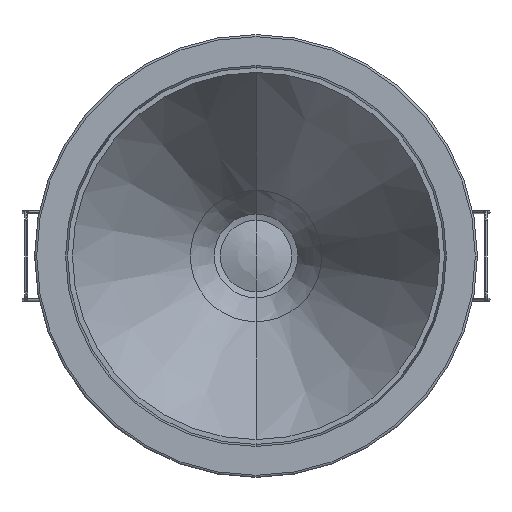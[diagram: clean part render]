
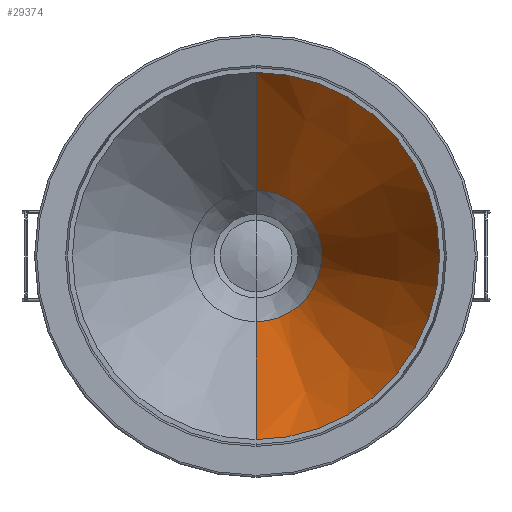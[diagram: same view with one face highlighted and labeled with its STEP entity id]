
A CAD part, front view. The second image highlights one B-rep face of the part: STEP entity #29374.
In plain terms, the highlighted conical face has half-angle 28.594 degrees and reference radius 29.564 mm.
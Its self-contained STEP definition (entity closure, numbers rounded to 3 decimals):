
#29231=CARTESIAN_POINT('',(0.,0.,-52.293));
#29232=DIRECTION('',(0.,0.,1.));
#29233=DIRECTION('',(0.,1.,0.));
#29234=AXIS2_PLACEMENT_3D('',#29231,#29232,#29233);
#29247=DIRECTION('',(0.,-0.479,-0.878));
#29248=VECTOR('',#29247,58.418);
#29249=CARTESIAN_POINT('',(0.,43.544,-1.));
#29250=LINE('',#29249,#29248);
#29254=DIRECTION('',(0.,0.479,-0.878));
#29255=VECTOR('',#29254,58.418);
#29256=CARTESIAN_POINT('',(0.,-43.544,-1.));
#29257=LINE('',#29256,#29255);
#29261=CARTESIAN_POINT('',(0.,0.,-1.));
#29262=DIRECTION('',(0.,0.,1.));
#29263=DIRECTION('',(0.,1.,0.));
#29264=AXIS2_PLACEMENT_3D('',#29261,#29262,#29263);
#29285=CARTESIAN_POINT('',(0.,15.584,-52.293));
#29286=CARTESIAN_POINT('',(0.,-15.584,-52.293));
#29287=VERTEX_POINT('',#29285);
#29288=VERTEX_POINT('',#29286);
#29289=CARTESIAN_POINT('',(0.,43.544,-1.));
#29290=CARTESIAN_POINT('',(0.,-43.544,-1.));
#29291=VERTEX_POINT('',#29289);
#29292=VERTEX_POINT('',#29290);
#29360=CARTESIAN_POINT('',(0.,0.,-26.647));
#29361=DIRECTION('',(0.,0.,1.));
#29362=DIRECTION('',(0.,-1.,0.));
#29363=AXIS2_PLACEMENT_3D('',#29360,#29361,#29362);
#29364=CONICAL_SURFACE('',#29363,29.564,28.594);
#29365=ORIENTED_EDGE('',*,*,#29346,.T.);
#29367=ORIENTED_EDGE('',*,*,#29366,.F.);
#29369=ORIENTED_EDGE('',*,*,#29368,.F.);
#29371=ORIENTED_EDGE('',*,*,#29370,.T.);
#29372=EDGE_LOOP('',(#29365,#29367,#29369,#29371));
#29373=FACE_OUTER_BOUND('',#29372,.F.);
#29374=ADVANCED_FACE('',(#29373),#29364,.F.);
#29235=CIRCLE('',#29234,15.584);
#29265=CIRCLE('',#29264,43.544);
#29346=EDGE_CURVE('',#29287,#29288,#29235,.T.);
#29366=EDGE_CURVE('',#29292,#29288,#29257,.T.);
#29368=EDGE_CURVE('',#29291,#29292,#29265,.T.);
#29370=EDGE_CURVE('',#29291,#29287,#29250,.T.);
